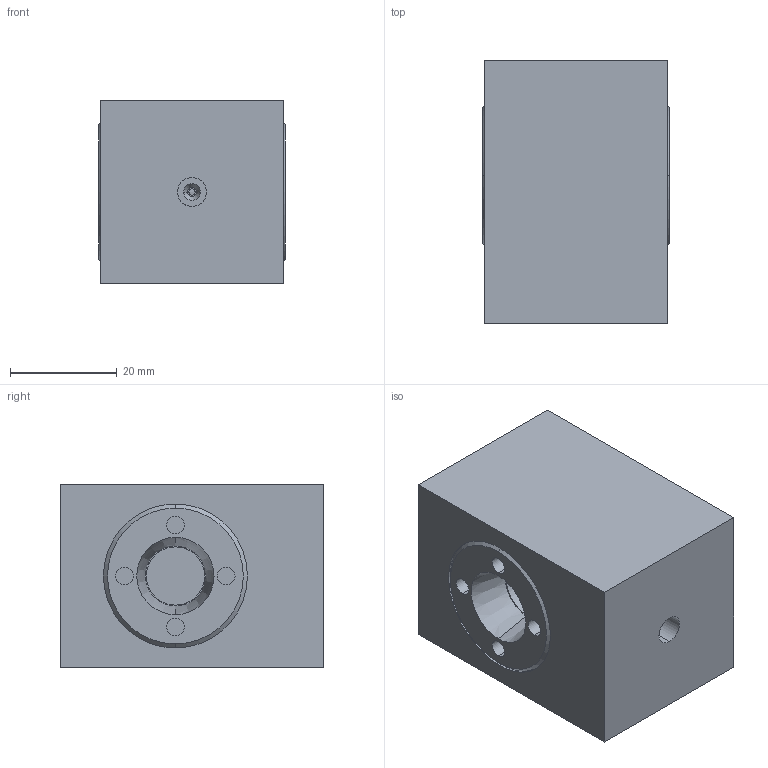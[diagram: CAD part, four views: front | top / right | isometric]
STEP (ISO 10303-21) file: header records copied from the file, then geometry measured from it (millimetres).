
FILE_DESCRIPTION(('Creo Elements/Direct Modeling STEP Export'),'2;1');
FILE_NAME('SANS_pressure_vessel_asy.stp','2025-03-24T18:43:38',(''),(''),'Creo Elements/Direct Modeling STEP processor for AP214 (Solid Model)','Creo Elements/Direct Modeling 20.6A 14-Oct-2023 (C) Parametric Technology GmbH','');
FILE_SCHEMA(('AUTOMOTIVE_DESIGN { 1 0 10303 214 1 1 1 1 }'));
Length unit declared in the file: millimetre
Products named in the file (7): Pressure_vessel_plug2.1; Pressure_vessel_block2_ver2.1; pressure_cell_window; pressure_vessel_block_spacer; 5267T78_Viton_Oring; pressure_vessel_block_sapphire_spacer; asy_press_blk_plug
Assembly tree (10 placements, depth 2):
  asy_press_blk_plug
    pressure_vessel_block_sapphire_spacer
    5267T78_Viton_Oring  x2
    pressure_vessel_block_spacer  x2
    pressure_cell_window  x2
    Pressure_vessel_plug2.1  x2
    Pressure_vessel_block2_ver2.1
Bounding box: 34.92 x 49.4 x 34.34 mm (x, y, z)
Volume: 52715.5 mm3; surface area: 20957.1 mm2
Topology: 10 solids, 10 shells, 140 faces, 319 edges, 208 vertices
Faces by surface type: cylinder 64, plane 38, torus 24, cone 14
Entity records: 3141 total; most frequent: CARTESIAN_POINT 608, ORIENTED_EDGE 498, DIRECTION 484, EDGE_CURVE 249, AXIS2_PLACEMENT_3D 206, VERTEX_POINT 164, EDGE_LOOP 127, FACE_OUTER_BOUND 104
